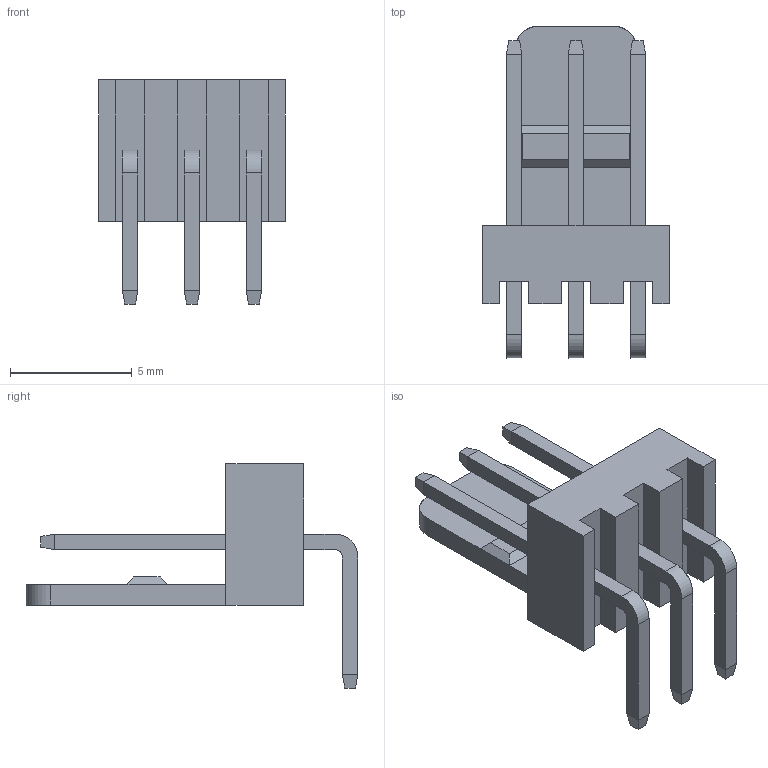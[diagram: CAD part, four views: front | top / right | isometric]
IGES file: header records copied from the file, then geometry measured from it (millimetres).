
Start section: SolidWorks IGES file using analytic representation for surfaces
Global section: file name: C:\Users\LHsu.SEC\Desktop\Wafer, TICKET #65472\11634, SWR25X-NRTC-S03-RB-BA.IGS; native system: SolidWorks 2012; preprocessor: SolidWorks 2012; author: lhsu; date: 150426.231330; units: millimetre
Bounding box: 7.66 x 13.62 x 9.2 mm (x, y, z)
Surface area: 449.4 mm2 (no closed solid volume)
Topology: 0 solids, 0 shells, 108 faces, 608 edges, 608 vertices
Faces by surface type: bspline 100, revolution 8
